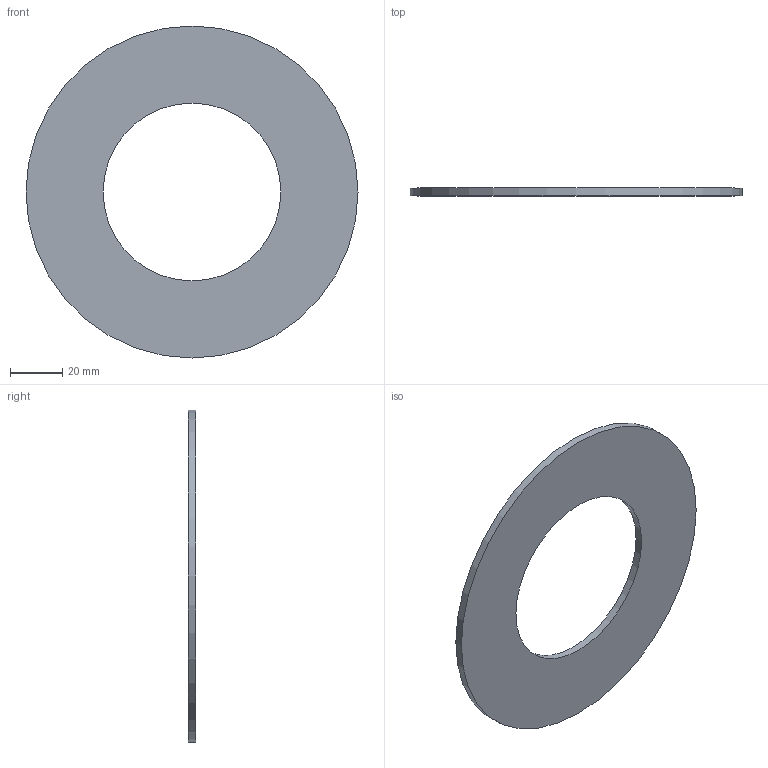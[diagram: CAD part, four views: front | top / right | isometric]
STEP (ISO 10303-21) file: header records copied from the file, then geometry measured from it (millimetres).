
FILE_DESCRIPTION(/* description */ ('Unknown'),/* implementation_level */ '2;1');
FILE_NAME(/* name */ 'GUA.075B',/* time_stamp */ '2021-04-01T11:28:29+02:00',/* author */ ('Unknown'),/* organization */ ('Unknown'),/* preprocessor_version */ 'ST-DEVELOPER v16.7',/* originating_system */ 'Solid Edge',/* authorisation */ 'Unknown');
FILE_SCHEMA (('AUTOMOTIVE_DESIGN {1 0 10303 214 3 1 1}'));
Length unit declared in the file: millimetre
Products named in the file (1): GUA.075B
Bounding box: 127 x 3 x 127 mm (x, y, z)
Volume: 27108 mm3; surface area: 19909.8 mm2
Topology: 1 solids, 1 shells, 4 faces, 6 edges, 4 vertices
Faces by surface type: cylinder 2, plane 2
Full cylindrical faces by diameter (mm): 68 x1, 127 x1
Entity records: 118 total; most frequent: DIRECTION 18, CARTESIAN_POINT 13, AXIS2_PLACEMENT_3D 9, ORIENTED_EDGE 8, EDGE_LOOP 8, FACE_BOUND 8, EDGE_CURVE 4, VERTEX_POINT 4
